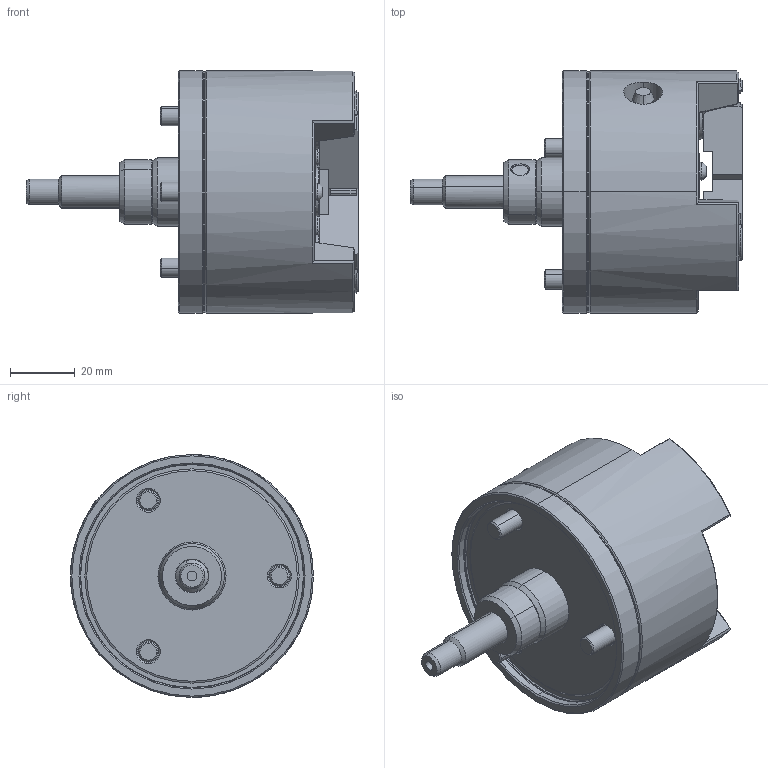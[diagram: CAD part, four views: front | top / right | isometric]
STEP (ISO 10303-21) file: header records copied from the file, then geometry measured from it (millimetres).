
FILE_DESCRIPTION (( 'STEP AP214' ), '1' );
FILE_NAME ('PU203_OC.STEP', '2019-10-18T06:58:18', ( '' ), ( '' ), 'SwSTEP 2.0', 'SolidWorks 2017', '' );
FILE_SCHEMA (( 'AUTOMOTIVE_DESIGN' ));
Length unit declared in the file: millimetre
Products named in the file (4): 結合; 0030105012; 61P449764; PU203_OC
Assembly tree (7 placements, depth 2):
  PU203_OC
    61P449764  x3
    0030105012  x3
    結合
Bounding box: 102.5 x 75 x 75 mm (x, y, z)
Volume: 197690.5 mm3; surface area: 40253.4 mm2
Topology: 7 solids, 7 shells, 985 faces, 2475 edges, 1559 vertices
Faces by surface type: plane 476, cone 164, bspline 163, cylinder 151, torus 31
Entity records: 33873 total; most frequent: CARTESIAN_POINT 14020, ORIENTED_EDGE 4426, DIRECTION 3473, EDGE_CURVE 2213, VERTEX_POINT 1409, LINE 1183, VECTOR 1183, AXIS2_PLACEMENT_3D 1145
